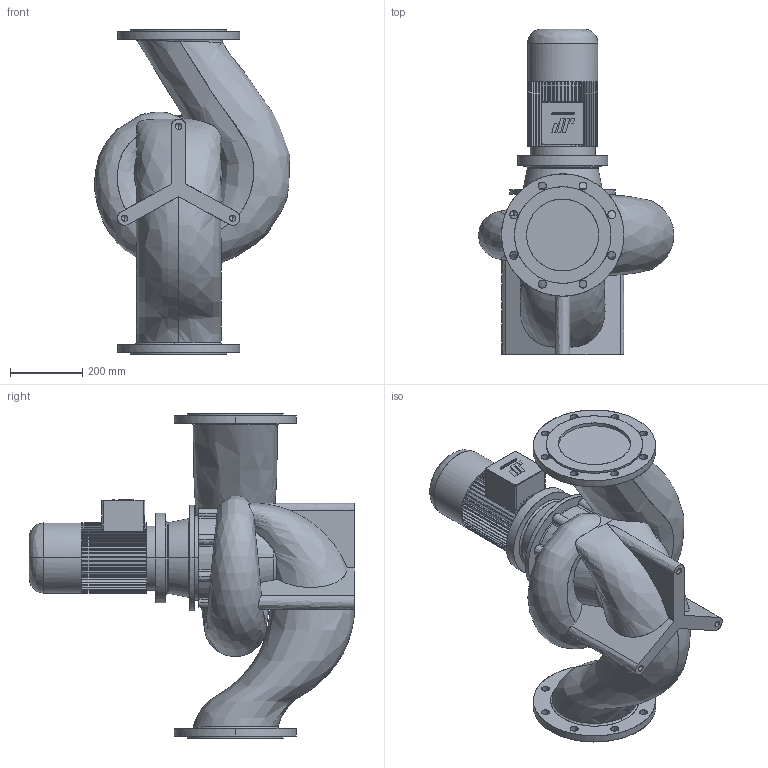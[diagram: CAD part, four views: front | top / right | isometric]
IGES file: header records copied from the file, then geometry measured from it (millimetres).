
Start section: CombiLine
Global section: file name: CLB_200-160_IEC100L_ND10.igs; native system:  By UGS Corp.; preprocessor: XPlus GENERIC/IGES 3.0; author: Stageplaats; organization: Johnson Pump Water B.V.; date: 20070717.144025; units: millimetre
Bounding box: 542.63 x 904.5 x 900 mm (x, y, z)
Surface area: 2219539.6 mm2 (no closed solid volume)
Topology: 0 solids, 0 shells, 682 faces, 3925 edges, 3919 vertices
Faces by surface type: bspline 682
